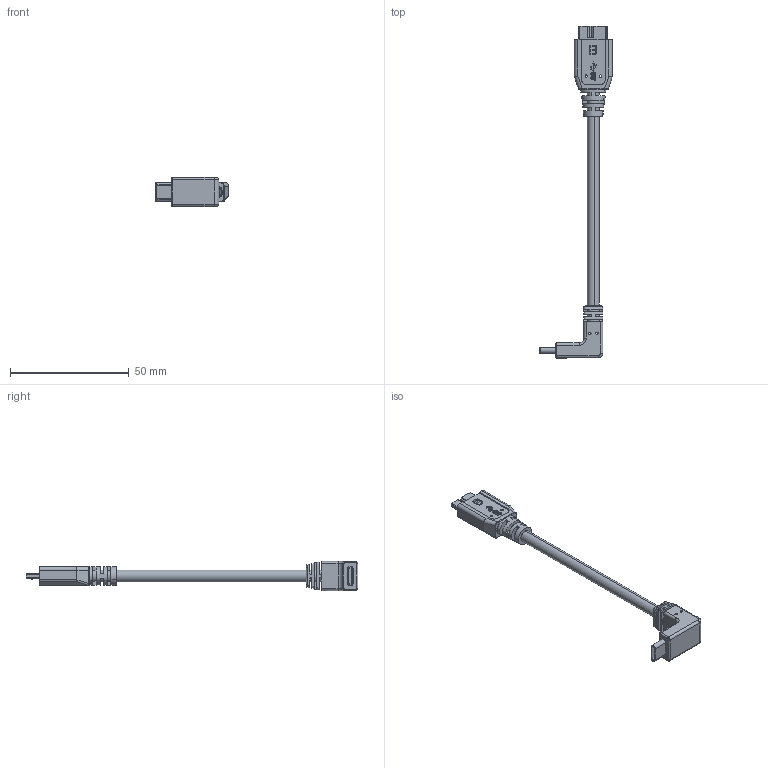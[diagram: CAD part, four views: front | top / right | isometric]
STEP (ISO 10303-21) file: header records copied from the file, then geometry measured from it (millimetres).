
FILE_DESCRIPTION (( 'STEP AP203' ), '1' );
FILE_NAME ('RR-MSCV-XXGRA_202302.STEP', '2023-02-17T05:38:05', ( '' ), ( '' ), 'SwSTEP 2.0', 'SolidWorks 2019', '' );
FILE_SCHEMA (( 'CONFIG_CONTROL_DESIGN' ));
Length unit declared in the file: millimetre
Products named in the file (1): RR-MSCV-XXGRA_202302
Bounding box: 30.65 x 139.9 x 12.25 mm (x, y, z)
Volume: 7414.9 mm3; surface area: 5129.9 mm2
Topology: 1 solids, 1 shells, 418 faces, 1140 edges, 736 vertices
Faces by surface type: plane 203, cylinder 121, bspline 77, torus 13, cone 4
Entity records: 15818 total; most frequent: CARTESIAN_POINT 5821, ORIENTED_EDGE 2272, DIRECTION 1764, EDGE_CURVE 1136, VERTEX_POINT 736, LINE 634, VECTOR 634, AXIS2_PLACEMENT_3D 565
